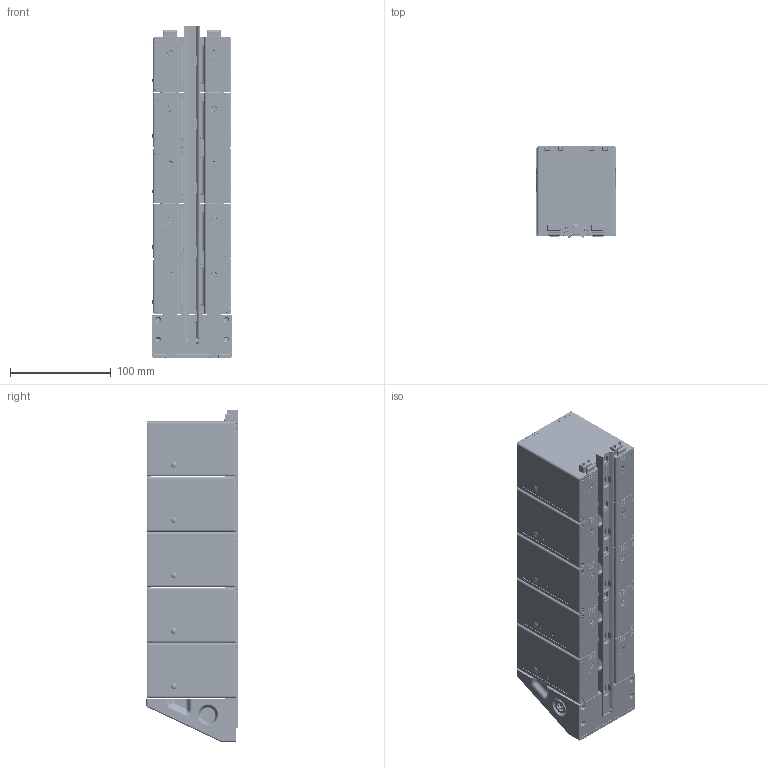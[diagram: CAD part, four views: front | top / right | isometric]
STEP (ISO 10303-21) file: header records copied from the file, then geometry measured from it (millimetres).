
FILE_DESCRIPTION (( 'STEP AP214' ), '1' );
FILE_NAME ('LGX 5X Basic Dock.STEP', '2025-11-04T00:57:27', ( '' ), ( '' ), 'SwSTEP 2.0', 'SolidWorks 2021', '' );
FILE_SCHEMA (( 'AUTOMOTIVE_DESIGN' ));
Length unit declared in the file: millimetre
Products named in the file (22): LGX-Dock R3_Shell Only; LGX-Latch; LXG Single Module_B2 Rear Locked; LGX-Ovl; LXG Single Module_B2 Locked; M3 Screw_M3x12; LGX Cell Assembly; XT60M; LGX-Dock R3_Dock Only; LGX_TLock; LGX-Rail_Rail x5; XT60F; ST3 Plug; M3 Screw_M3x18; LG10X-Top_InjectionMolding; M3 Screw_M3x5; LGX-Encl_Extrusion Profile; LXG Single Module_B2 Front Locked; LiGo 10X PCB P5; LGX-Base_InjectionMolded; LGX 5X Basic Dock
Assembly tree (95 placements, depth 4):
  LGX 5X Basic Dock
    LGX-Rail_Rail x5
    LGX-Dock R3_Dock Only
    XT60F  x2
    LGX-Dock R3_Shell Only
    LXG Single Module_B2 Front Locked
      LG10X-Top_InjectionMolding
      LGX-Encl_Extrusion Profile
      LGX-Base_InjectionMolded
      LGX Cell Assembly
        XT60F  x2
        XT60M  x2
        LiGo 10X PCB P5
      LGX-Latch  x2
      LGX-Ovl
      LGX_TLock  x4
      M3 Screw_M3x18  x4
      M3 Screw_M3x5  x2
      M3 Screw_M3x12  x8
    LXG Single Module_B2 Locked  x3
      LG10X-Top_InjectionMolding
      LGX-Encl_Extrusion Profile
      LGX-Base_InjectionMolded
      LGX Cell Assembly
        XT60F  x2
        XT60M  x2
      LGX-Latch
      LGX-Ovl
      LGX_TLock
      M3 Screw_M3x18
      M3 Screw_M3x5
      M3 Screw_M3x12
    LXG Single Module_B2 Rear Locked
      LG10X-Top_InjectionMolding
      LGX-Encl_Extrusion Profile
      LGX-Base_InjectionMolded
      LGX Cell Assembly
        XT60F  x2
        XT60M  x2
      LGX-Latch  x2
      LGX-Ovl
      LGX_TLock  x4
      M3 Screw_M3x18  x4
      M3 Screw_M3x5  x2
      M3 Screw_M3x12  x8
    ST3 Plug
Bounding box: 79.35 x 90.67 x 330.37 mm (x, y, z)
Volume: 552170.7 mm3; surface area: 531648.4 mm2
Topology: 220 solids, 220 shells, 21998 faces, 54240 edges, 32307 vertices
Faces by surface type: cylinder 7466, plane 5631, bspline 5214, torus 2420, cone 1178, sphere 89
Entity records: 155325 total; most frequent: CARTESIAN_POINT 49892, ORIENTED_EDGE 22120, DIRECTION 20048, EDGE_CURVE 11060, AXIS2_PLACEMENT_3D 7588, VERTEX_POINT 6754, VECTOR 4872, LINE 4872
